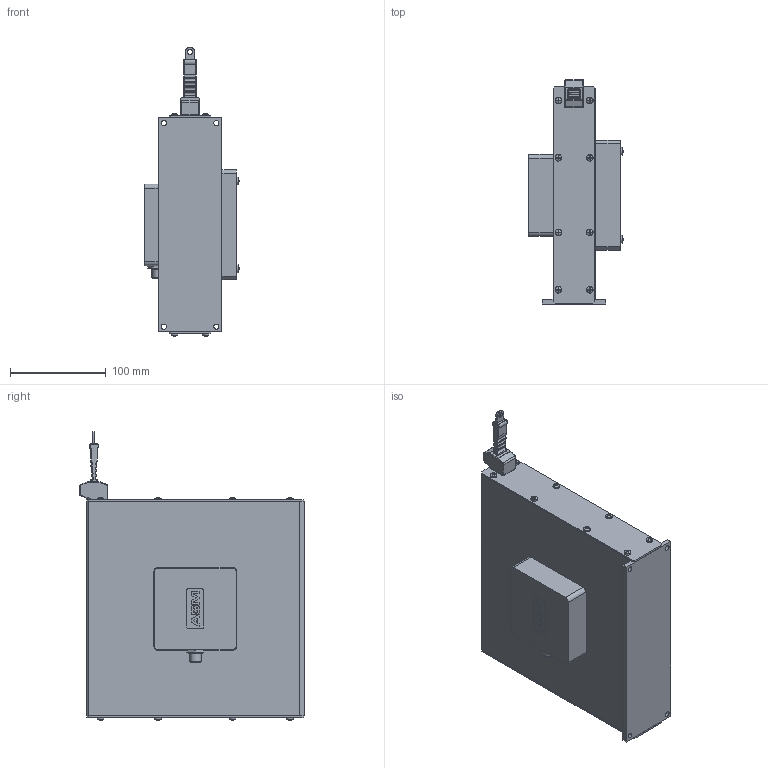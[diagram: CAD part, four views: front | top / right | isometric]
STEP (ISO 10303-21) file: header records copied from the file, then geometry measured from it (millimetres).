
FILE_DESCRIPTION((''),'2;1');
FILE_NAME('C:\Dokumente und Einstellungen\welter\Desktop\WB21 20000 2.stp','2014-02-05T11:28:23',('welter'),(''),'Autodesk Inventor 2008','Autodesk Inventor 2008','');
FILE_SCHEMA(('AUTOMOTIVE_DESIGN { 1 0 10303 214 1 1 1 1 }'));
Length unit declared in the file: millimetre
Products named in the file (1): Bauteil1
Bounding box: 99.1 x 234.9 x 301.88 mm (x, y, z)
Volume: 2860109.9 mm3; surface area: 183113.3 mm2
Topology: 1 solids, 3 shells, 827 faces, 2027 edges, 1235 vertices
Faces by surface type: plane 479, cylinder 129, bspline 129, sphere 55, cone 24, torus 11
Full cylindrical faces by diameter (mm): 1 x5, 8 x4, 8.3 x1, 9.55 x1, 10.4 x1, 12 x1
Entity records: 27888 total; most frequent: CARTESIAN_POINT 8302, ORIENTED_EDGE 3886, DIRECTION 3808, EDGE_CURVE 1943, AXIS2_PLACEMENT_3D 1367, VERTEX_POINT 1223, VECTOR 1074, LINE 1074
